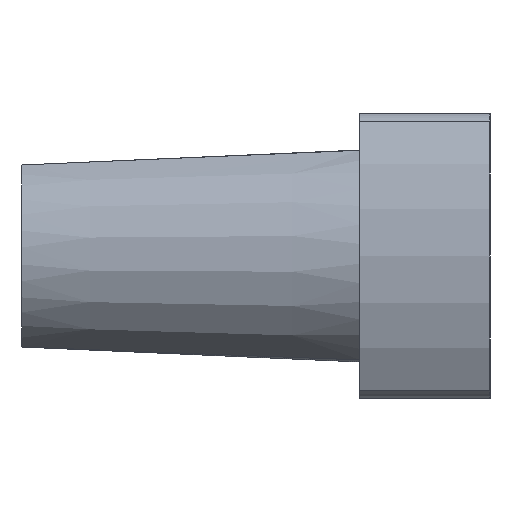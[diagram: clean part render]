
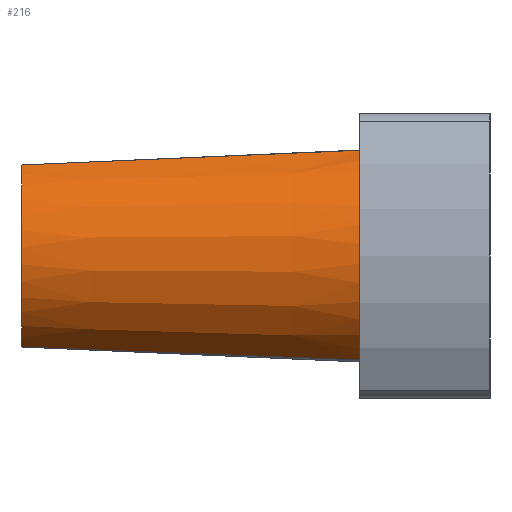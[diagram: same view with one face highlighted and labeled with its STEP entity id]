
A CAD part, left-side view. The second image highlights one B-rep face of the part: STEP entity #216.
In plain terms, the highlighted conical face has half-angle 2.5 degrees and reference radius 4 mm.
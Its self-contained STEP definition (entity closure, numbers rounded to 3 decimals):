
#144 = VERTEX_POINT( '', #396 );
#148 = VERTEX_POINT( '', #401 );
#166 = VERTEX_POINT( '', #420 );
#184 = EDGE_CURVE( '', #166, #368, #440, .T. );
#216 = ADVANCED_FACE( '', ( #479 ), #480, .T. );
#234 = EDGE_CURVE( '', #368, #144, #499, .T. );
#278 = EDGE_CURVE( '', #166, #148, #548, .T. );
#338 = EDGE_CURVE( '', #148, #144, #613, .T. );
#368 = VERTEX_POINT( '', #647 );
#396 = CARTESIAN_POINT( '', ( -1.312, -13., 4.076 ) );
#401 = CARTESIAN_POINT( '', ( -1.186, 0., 3.5 ) );
#420 = CARTESIAN_POINT( '', ( -1.186, 0., -3.5 ) );
#440 = LINE( '', #722, #723 );
#479 = FACE_OUTER_BOUND( '', #773, .T. );
#480 = CONICAL_SURFACE( '', #774, 4., 0.044 );
#499 = CIRCLE( '', #801, 4.568 );
#548 = CIRCLE( '', #863, 4. );
#613 = B_SPLINE_CURVE_WITH_KNOTS( '', 3, ( #946, #947, #948, #949 ), .UNSPECIFIED., .F., .F., ( 4, 4 ), ( 2.158, 14.277 ), .UNSPECIFIED. );
#647 = CARTESIAN_POINT( '', ( -1.461, -13., -3.997 ) );
#722 = CARTESIAN_POINT( '', ( -1.186, 0., -3.5 ) );
#723 = VECTOR( '', #1065, 1. );
#773 = EDGE_LOOP( '', ( #1131, #1132, #1133, #1134 ) );
#774 = AXIS2_PLACEMENT_3D( '', #1135, #1136, #1137 );
#801 = AXIS2_PLACEMENT_3D( '', #1154, #1155, #1156 );
#863 = AXIS2_PLACEMENT_3D( '', #1227, #1228, #1229 );
#946 = CARTESIAN_POINT( '', ( -1.186, 0., 3.5 ) );
#947 = CARTESIAN_POINT( '', ( -1.227, -4.035, 3.679 ) );
#948 = CARTESIAN_POINT( '', ( -1.273, -8.752, 3.888 ) );
#949 = CARTESIAN_POINT( '', ( -1.312, -13., 4.076 ) );
#1065 = DIRECTION( '', ( -0.021, -0.999, -0.038 ) );
#1131 = ORIENTED_EDGE( '', *, *, #184, .T. );
#1132 = ORIENTED_EDGE( '', *, *, #234, .T. );
#1133 = ORIENTED_EDGE( '', *, *, #338, .F. );
#1134 = ORIENTED_EDGE( '', *, *, #278, .F. );
#1135 = CARTESIAN_POINT( '', ( 0.75, 0., 0. ) );
#1136 = DIRECTION( '', ( 0., -1., 0. ) );
#1137 = DIRECTION( '', ( -0.484, 0., -0.875 ) );
#1154 = CARTESIAN_POINT( '', ( 0.75, -13., 0. ) );
#1155 = DIRECTION( '', ( 0., 1., 0. ) );
#1156 = DIRECTION( '', ( -0.484, 0., -0.875 ) );
#1227 = CARTESIAN_POINT( '', ( 0.75, 0., 0. ) );
#1228 = DIRECTION( '', ( 0., 1., 0. ) );
#1229 = DIRECTION( '', ( -0.484, 0., -0.875 ) );
